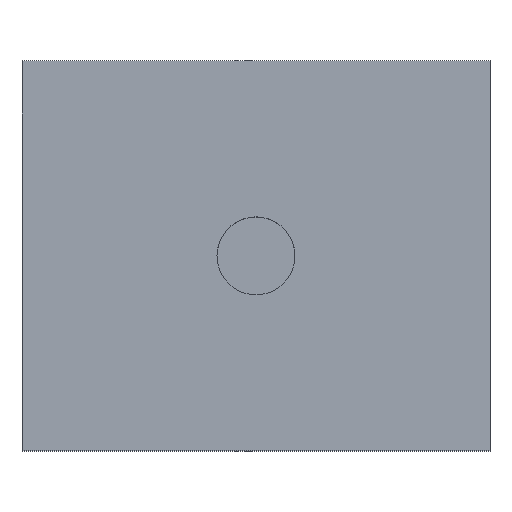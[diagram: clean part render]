
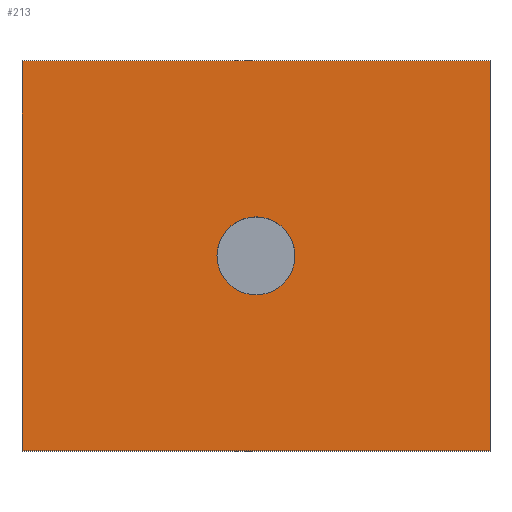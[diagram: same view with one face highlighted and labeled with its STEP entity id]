
A CAD part, top view. The second image highlights one B-rep face of the part: STEP entity #213.
In plain terms, the highlighted planar face has unit normal (0, 0, 1).
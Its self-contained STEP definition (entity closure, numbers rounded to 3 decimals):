
#24 = VERTEX_POINT('',#25);
#25 = CARTESIAN_POINT('',(0.,0.,4.));
#32 = PLANE('',#33);
#33 = AXIS2_PLACEMENT_3D('',#34,#35,#36);
#34 = CARTESIAN_POINT('',(0.,0.,0.));
#35 = DIRECTION('',(1.,0.,-0.));
#36 = DIRECTION('',(0.,0.,1.));
#44 = PLANE('',#45);
#45 = AXIS2_PLACEMENT_3D('',#46,#47,#48);
#46 = CARTESIAN_POINT('',(0.,0.,0.));
#47 = DIRECTION('',(-0.,1.,0.));
#48 = DIRECTION('',(0.,0.,1.));
#85 = VERTEX_POINT('',#86);
#86 = CARTESIAN_POINT('',(0.,10.,4.));
#100 = PLANE('',#101);
#101 = AXIS2_PLACEMENT_3D('',#102,#103,#104);
#102 = CARTESIAN_POINT('',(0.,10.,0.));
#103 = DIRECTION('',(-0.,1.,0.));
#104 = DIRECTION('',(0.,0.,1.));
#112 = EDGE_CURVE('',#24,#85,#113,.T.);
#113 = SURFACE_CURVE('',#114,(#118,#125),.PCURVE_S1.);
#114 = LINE('',#115,#116);
#115 = CARTESIAN_POINT('',(0.,0.,4.));
#116 = VECTOR('',#117,1.);
#117 = DIRECTION('',(-0.,1.,0.));
#118 = PCURVE('',#32,#119);
#119 = DEFINITIONAL_REPRESENTATION('',(#120),#124);
#120 = LINE('',#121,#122);
#121 = CARTESIAN_POINT('',(4.,0.));
#122 = VECTOR('',#123,1.);
#123 = DIRECTION('',(0.,-1.));
#124 = ( GEOMETRIC_REPRESENTATION_CONTEXT(2) 
PARAMETRIC_REPRESENTATION_CONTEXT() REPRESENTATION_CONTEXT('2D SPACE',''
  ) );
#125 = PCURVE('',#126,#131);
#126 = PLANE('',#127);
#127 = AXIS2_PLACEMENT_3D('',#128,#129,#130);
#128 = CARTESIAN_POINT('',(0.,0.,4.));
#129 = DIRECTION('',(0.,0.,1.));
#130 = DIRECTION('',(1.,0.,-0.));
#131 = DEFINITIONAL_REPRESENTATION('',(#132),#136);
#132 = LINE('',#133,#134);
#133 = CARTESIAN_POINT('',(0.,0.));
#134 = VECTOR('',#135,1.);
#135 = DIRECTION('',(0.,1.));
#136 = ( GEOMETRIC_REPRESENTATION_CONTEXT(2) 
PARAMETRIC_REPRESENTATION_CONTEXT() REPRESENTATION_CONTEXT('2D SPACE',''
  ) );
#165 = EDGE_CURVE('',#24,#166,#168,.T.);
#166 = VERTEX_POINT('',#167);
#167 = CARTESIAN_POINT('',(12.,0.,4.));
#168 = SURFACE_CURVE('',#169,(#173,#180),.PCURVE_S1.);
#169 = LINE('',#170,#171);
#170 = CARTESIAN_POINT('',(0.,0.,4.));
#171 = VECTOR('',#172,1.);
#172 = DIRECTION('',(1.,0.,-0.));
#173 = PCURVE('',#44,#174);
#174 = DEFINITIONAL_REPRESENTATION('',(#175),#179);
#175 = LINE('',#176,#177);
#176 = CARTESIAN_POINT('',(4.,0.));
#177 = VECTOR('',#178,1.);
#178 = DIRECTION('',(0.,1.));
#179 = ( GEOMETRIC_REPRESENTATION_CONTEXT(2) 
PARAMETRIC_REPRESENTATION_CONTEXT() REPRESENTATION_CONTEXT('2D SPACE',''
  ) );
#180 = PCURVE('',#126,#181);
#181 = DEFINITIONAL_REPRESENTATION('',(#182),#186);
#182 = LINE('',#183,#184);
#183 = CARTESIAN_POINT('',(0.,0.));
#184 = VECTOR('',#185,1.);
#185 = DIRECTION('',(1.,0.));
#186 = ( GEOMETRIC_REPRESENTATION_CONTEXT(2) 
PARAMETRIC_REPRESENTATION_CONTEXT() REPRESENTATION_CONTEXT('2D SPACE',''
  ) );
#202 = PLANE('',#203);
#203 = AXIS2_PLACEMENT_3D('',#204,#205,#206);
#204 = CARTESIAN_POINT('',(12.,0.,0.));
#205 = DIRECTION('',(1.,0.,-0.));
#206 = DIRECTION('',(0.,0.,1.));
#213 = ADVANCED_FACE('',(#214,#262),#126,.T.);
#214 = FACE_BOUND('',#215,.T.);
#215 = EDGE_LOOP('',(#216,#217,#218,#241));
#216 = ORIENTED_EDGE('',*,*,#112,.F.);
#217 = ORIENTED_EDGE('',*,*,#165,.T.);
#218 = ORIENTED_EDGE('',*,*,#219,.T.);
#219 = EDGE_CURVE('',#166,#220,#222,.T.);
#220 = VERTEX_POINT('',#221);
#221 = CARTESIAN_POINT('',(12.,10.,4.));
#222 = SURFACE_CURVE('',#223,(#227,#234),.PCURVE_S1.);
#223 = LINE('',#224,#225);
#224 = CARTESIAN_POINT('',(12.,0.,4.));
#225 = VECTOR('',#226,1.);
#226 = DIRECTION('',(-0.,1.,0.));
#227 = PCURVE('',#126,#228);
#228 = DEFINITIONAL_REPRESENTATION('',(#229),#233);
#229 = LINE('',#230,#231);
#230 = CARTESIAN_POINT('',(12.,0.));
#231 = VECTOR('',#232,1.);
#232 = DIRECTION('',(0.,1.));
#233 = ( GEOMETRIC_REPRESENTATION_CONTEXT(2) 
PARAMETRIC_REPRESENTATION_CONTEXT() REPRESENTATION_CONTEXT('2D SPACE',''
  ) );
#234 = PCURVE('',#202,#235);
#235 = DEFINITIONAL_REPRESENTATION('',(#236),#240);
#236 = LINE('',#237,#238);
#237 = CARTESIAN_POINT('',(4.,0.));
#238 = VECTOR('',#239,1.);
#239 = DIRECTION('',(0.,-1.));
#240 = ( GEOMETRIC_REPRESENTATION_CONTEXT(2) 
PARAMETRIC_REPRESENTATION_CONTEXT() REPRESENTATION_CONTEXT('2D SPACE',''
  ) );
#241 = ORIENTED_EDGE('',*,*,#242,.F.);
#242 = EDGE_CURVE('',#85,#220,#243,.T.);
#243 = SURFACE_CURVE('',#244,(#248,#255),.PCURVE_S1.);
#244 = LINE('',#245,#246);
#245 = CARTESIAN_POINT('',(0.,10.,4.));
#246 = VECTOR('',#247,1.);
#247 = DIRECTION('',(1.,0.,-0.));
#248 = PCURVE('',#126,#249);
#249 = DEFINITIONAL_REPRESENTATION('',(#250),#254);
#250 = LINE('',#251,#252);
#251 = CARTESIAN_POINT('',(0.,10.));
#252 = VECTOR('',#253,1.);
#253 = DIRECTION('',(1.,0.));
#254 = ( GEOMETRIC_REPRESENTATION_CONTEXT(2) 
PARAMETRIC_REPRESENTATION_CONTEXT() REPRESENTATION_CONTEXT('2D SPACE',''
  ) );
#255 = PCURVE('',#100,#256);
#256 = DEFINITIONAL_REPRESENTATION('',(#257),#261);
#257 = LINE('',#258,#259);
#258 = CARTESIAN_POINT('',(4.,0.));
#259 = VECTOR('',#260,1.);
#260 = DIRECTION('',(0.,1.));
#261 = ( GEOMETRIC_REPRESENTATION_CONTEXT(2) 
PARAMETRIC_REPRESENTATION_CONTEXT() REPRESENTATION_CONTEXT('2D SPACE',''
  ) );
#262 = FACE_BOUND('',#263,.T.);
#263 = EDGE_LOOP('',(#264));
#264 = ORIENTED_EDGE('',*,*,#265,.F.);
#265 = EDGE_CURVE('',#266,#266,#268,.T.);
#266 = VERTEX_POINT('',#267);
#267 = CARTESIAN_POINT('',(7.,5.,4.));
#268 = SURFACE_CURVE('',#269,(#274,#281),.PCURVE_S1.);
#269 = CIRCLE('',#270,1.);
#270 = AXIS2_PLACEMENT_3D('',#271,#272,#273);
#271 = CARTESIAN_POINT('',(6.,5.,4.));
#272 = DIRECTION('',(0.,0.,1.));
#273 = DIRECTION('',(1.,0.,-0.));
#274 = PCURVE('',#126,#275);
#275 = DEFINITIONAL_REPRESENTATION('',(#276),#280);
#276 = CIRCLE('',#277,1.);
#277 = AXIS2_PLACEMENT_2D('',#278,#279);
#278 = CARTESIAN_POINT('',(6.,5.));
#279 = DIRECTION('',(1.,0.));
#280 = ( GEOMETRIC_REPRESENTATION_CONTEXT(2) 
PARAMETRIC_REPRESENTATION_CONTEXT() REPRESENTATION_CONTEXT('2D SPACE',''
  ) );
#281 = PCURVE('',#282,#287);
#282 = CYLINDRICAL_SURFACE('',#283,1.);
#283 = AXIS2_PLACEMENT_3D('',#284,#285,#286);
#284 = CARTESIAN_POINT('',(6.,5.,2.));
#285 = DIRECTION('',(0.,0.,1.));
#286 = DIRECTION('',(1.,0.,-0.));
#287 = DEFINITIONAL_REPRESENTATION('',(#288),#292);
#288 = LINE('',#289,#290);
#289 = CARTESIAN_POINT('',(0.,2.));
#290 = VECTOR('',#291,1.);
#291 = DIRECTION('',(1.,0.));
#292 = ( GEOMETRIC_REPRESENTATION_CONTEXT(2) 
PARAMETRIC_REPRESENTATION_CONTEXT() REPRESENTATION_CONTEXT('2D SPACE',''
  ) );
